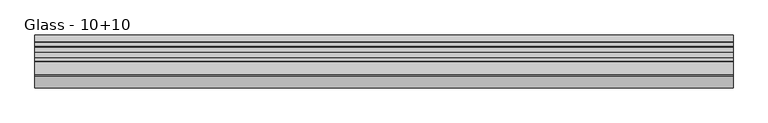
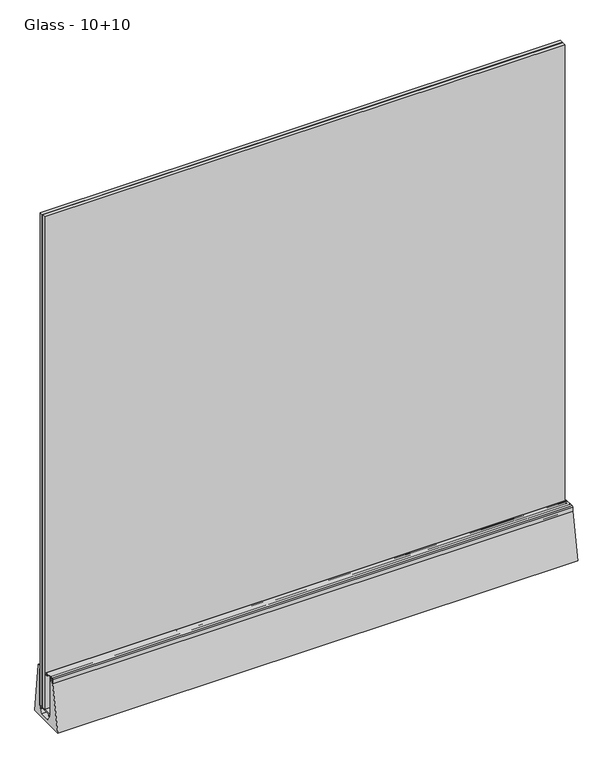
"""IFC4 building model written with IfcOpenShell, lengths in millimetres: proxy geometry, Construction_Slope-Glazing_Faraone_Linea-3-Maxi : Glass - 10+10."""

from ifc_helpers import new_model, si_unit, point, frame, frame_2d, origin, place, context, project, spatial, polyline, circle_curve, trimmed, segment, composite_curve, outline, extrude, source, transform, mapped, element, save


def glass_10_10_5fec30e6(model_context):
    return source(origin(), model_context, "Body", "SweptSolid", [
        extrude(outline(polyline([(750.0, 29.9536793), (750.0, 20.0036793), (-750.0, 20.0036793), (-750.0, 29.9536793), (750.0, 29.9536793)])), frame((0.0, 0.0, 32.9998941), z_axis=(0.0, 0.0, 1.0), x_axis=(1.0, 0.0, 0.0)), (0.0, 0.0, 1.0), 1500.0),
        extrude(outline(polyline([(750.0, 18.4036793), (750.0, 8.4536793), (-750.0, 8.4536793), (-750.0, 18.4036793), (750.0, 18.4036793)])), frame((0.0, 0.0, 32.9998941), z_axis=(0.0, 0.0, 1.0), x_axis=(1.0, 0.0, 0.0)), (0.0, 0.0, 1.0), 1500.0),
        extrude(outline(polyline([(27.9495501, 27.4998941), (28.9495501, 27.4998941), (27.9495501, 23.9998941), (25.4495501, 23.9998941), (25.4495501, 29.9998941), (-10.950381, 29.9998941), (-10.950381, 23.9998941), (-13.450381, 23.9998941), (-14.4501535, 27.4998941), (-13.450381, 27.4998941), (-13.450381, 30.0001664), (-16.4959153, 30.0001664), (-16.4959153, 32.9998941), (30.7553177, 32.9998941), (30.7553177, 140.9999202), (33.4499946, 140.9999202), (33.4499946, 29.9998941), (27.9495501, 29.9998941), (27.9495501, 27.4998941)])), frame((-750.0, 0.0, 0.0), z_axis=(1.0, 0.0, 0.0), x_axis=(0.0, 1.0, 0.0)), (0.0, 0.0, 1.0), 1500.0),
        extrude(outline(composite_curve([segment(trimmed(circle_curve(frame_2d((-0.5622607, 149.6202564)), 0.5), [point((-0.5622607, 150.1202564))], [point((-0.0622607, 149.6202564))], False, "CARTESIAN"), True, "CONTINUOUS"), segment(polyline([(-0.0622607, 149.6202564), (-0.0622607, 147.5116834), (-0.8559184, 147.5116834), (-0.8559184, 148.7592807), (-1.7540112, 148.7592807)]), True, "CONTINUOUS"), segment(trimmed(circle_curve(frame_2d((-1.7540112, 148.251018)), 0.5082627), [point((-1.7540112, 148.7592807))], [point((-2.2622739, 148.251018))], True, "CARTESIAN"), True, "CONTINUOUS"), segment(polyline([(-2.2622739, 148.251018), (-2.2622739, 143.7675435)]), True, "CONTINUOUS"), segment(trimmed(circle_curve(frame_2d((-1.7540112, 143.7675435)), 0.5082627), [point((-2.2622739, 143.7675435))], [point((-1.7540112, 143.2592807))], True, "CARTESIAN"), True, "CONTINUOUS"), segment(polyline([(-1.7540112, 143.2592807), (-0.8559184, 143.2592807), (-0.8559184, 144.5068781), (-0.0622607, 144.5068781), (-0.0622607, 142.5592807)]), True, "CONTINUOUS"), segment(trimmed(circle_curve(frame_2d((-0.5622607, 142.5592807)), 0.5), [point((-0.0622607, 142.5592807))], [point((-0.5622607, 142.0592807))], False, "CARTESIAN"), True, "CONTINUOUS"), segment(polyline([(-0.5622607, 142.0592807), (-2.9622736, 142.0592807)]), True, "CONTINUOUS"), segment(trimmed(circle_curve(frame_2d((-2.9622736, 142.559281)), 0.5000003), [point((-2.9622736, 142.0592807))], [point((-3.4622739, 142.559281))], False, "CARTESIAN"), True, "CONTINUOUS"), segment(polyline([(-3.4622739, 142.559281), (-3.4622739, 148.1202567)]), True, "CONTINUOUS"), segment(trimmed(circle_curve(frame_2d((-3.9622739, 148.1202567)), 0.5), [point((-3.4622739, 148.1202567))], [point((-3.9622739, 148.6202567))], True, "CARTESIAN"), True, "CONTINUOUS"), segment(polyline([(-3.9622739, 148.6202567), (-18.4381651, 148.6202569), (-18.4381651, 134.8497503), (-20.5252665, 134.8497503), (-20.5252665, 139.9087036), (-19.6381651, 139.9087036), (-19.6381651, 147.8202569)]), True, "CONTINUOUS"), segment(trimmed(circle_curve(frame_2d((-19.6381651, 148.2202569)), 0.4), [point((-19.6381651, 147.8202569))], [point((-19.6381651, 148.6202569))], True, "CARTESIAN"), True, "CONTINUOUS"), segment(polyline([(-19.6381651, 148.6202569), (-28.9632186, 148.6202569)]), True, "CONTINUOUS"), segment(trimmed(circle_curve(frame_2d((-28.9632186, 147.1202566)), 1.5000003), [point((-28.9632186, 148.6202569))], [point((-30.4632189, 147.1202566))], True, "CARTESIAN"), True, "CONTINUOUS"), segment(polyline([(-30.4632189, 147.1202566), (-30.4632189, 139.9087036), (-29.5827199, 139.9087036), (-29.5827199, 134.8497503), (-31.6632189, 134.8505456), (-31.6632189, 147.1202564)]), True, "CONTINUOUS"), segment(trimmed(circle_curve(frame_2d((-28.6632189, 147.1202564)), 3.0), [point((-31.6632189, 147.1202564))], [point((-28.6632189, 150.1202564))], False, "CARTESIAN"), True, "CONTINUOUS"), segment(polyline([(-28.6632189, 150.1202564), (-0.5622607, 150.1202564)]), True, "CONTINUOUS")], self_intersect=False)), frame((-750.0, 0.0, 0.0), z_axis=(1.0, 0.0, 0.0), x_axis=(0.0, 1.0, 0.0)), (0.0, 0.0, 1.0), 1500.0),
        extrude(outline(composite_curve([segment(polyline([(-57.25, 0.0), (-31.812192, 134.8497503), (-29.5827199, 134.8497503), (-29.5827199, 141.7168813), (-20.5252665, 141.7168813), (-20.5252665, 134.8497503), (-18.9499762, 134.8497503), (-18.9499762, 30.0001664), (-13.9493491, 30.0001664), (-13.9493491, 28.0001664), (-19.2314658, 28.0001664), (-7.6590914, 11.0005351), (22.522986, 11.0002742), (33.5998649, 28.0000261), (28.4500912, 28.0000261), (28.4500912, 29.9998941), (33.4499946, 29.9998941), (33.4499271, 149.9042043), (40.4619354, 149.9042043)]), True, "CONTINUOUS"), segment(trimmed(circle_curve(frame_2d((40.4619354, 148.7574992)), 1.1467051), [point((40.4619354, 149.9042043))], [point((41.6023587, 148.8773626))], False, "CARTESIAN"), True, "CONTINUOUS"), segment(polyline([(41.6023587, 148.8773626), (57.25, 0.0), (-57.25, 0.0)]), True, "CONTINUOUS")], self_intersect=False)), frame((-750.0, 0.0, 0.0), z_axis=(1.0, 0.0, 0.0), x_axis=(0.0, 1.0, 0.0)), (0.0, 0.0, 1.0), 1500.0),
    ])


if __name__ == "__main__":
    model = new_model("IFC4")
    model_context = context("Model", 3, world=origin())
    ifc_project = project(units=[si_unit("LENGTHUNIT", "METRE", prefix="MILLI")], contexts=[model_context])
    site = spatial("IfcSite", under=ifc_project)
    building = spatial("IfcBuilding", under=site)
    placement = place(None, origin())
    glass_10_10_shape = glass_10_10_5fec30e6(model_context)
    element("IfcBuildingElementProxy", 1, Name="Construction_Slope-Glazing_Faraone_Linea-3-Maxi : Glass - 10+10", ObjectType="Construction_Slope-Glazing_Faraone_Linea-3-Maxi : Glass - 10+10", at=placement, inside=building, context=model_context, shape_type="MappedRepresentation", body=[
        mapped(glass_10_10_shape, transform((0.0, 0.0, 0.0), x_axis=(1.0, 0.0, 0.0), y_axis=(0.0, 1.0, 0.0), z_axis=(0.0, 0.0, 1.0))),
    ])
    save(model, "model.ifc")
